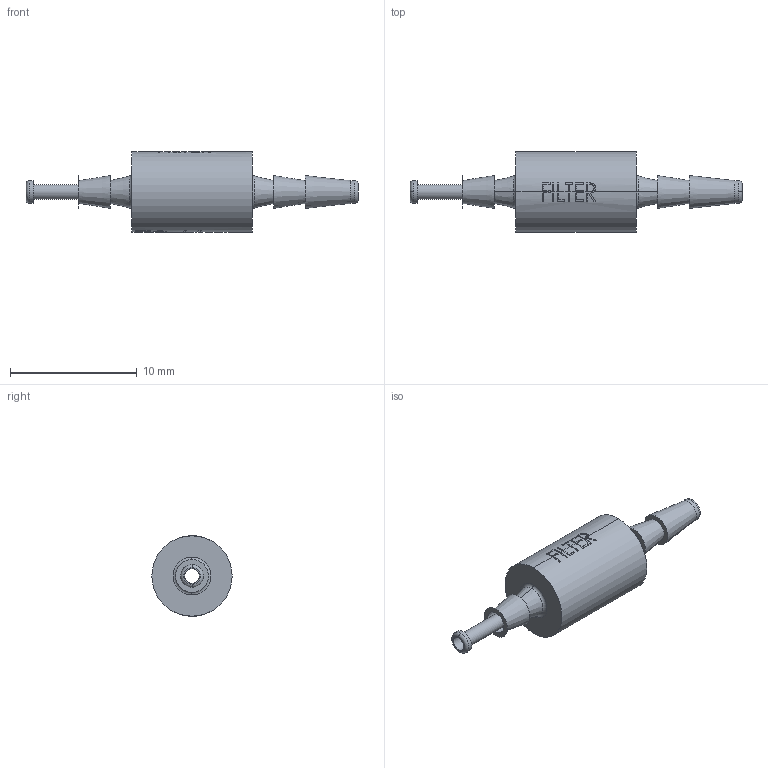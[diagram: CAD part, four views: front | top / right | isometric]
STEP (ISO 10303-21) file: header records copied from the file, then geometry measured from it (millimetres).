
FILE_DESCRIPTION(/* description */ ('SolidWorks IGES file using NURBS representation for surfaces '),/* implementation_level */ '2;1');
FILE_NAME(/* name */ 'K:\Normteile INVENTOR\Air-Logic\Filters\F-950-73-B80.IGS.ipt.stp',/* time_stamp */ '2020-05-27T10:39:50+02:00',/* author */ ('amarsh'),/* organization */ (''),/* preprocessor_version */ 'ST-DEVELOPER v18',/* originating_system */ 'Autodesk Inventor 2020',/* authorisation */ '');
FILE_SCHEMA (('AUTOMOTIVE_DESIGN { 1 0 10303 214 3 1 1 }'));
Length unit declared in the file: millimetre
Products named in the file (1): F-950-73-B80.IGS
Bounding box: 26.22 x 6.35 x 6.35 mm (x, y, z)
Volume: 335.3 mm3; surface area: 467.8 mm2
Topology: 1 solids, 1 shells, 161 faces, 462 edges, 310 vertices
Faces by surface type: plane 74, bspline 46, cylinder 25, torus 8, cone 8
Full cylindrical faces by diameter (mm): 1.17 x1, 1.8 x2
Entity records: 8926 total; most frequent: CARTESIAN_POINT 4634, ORIENTED_EDGE 924, DIRECTION 760, EDGE_CURVE 462, VERTEX_POINT 310, AXIS2_PLACEMENT_3D 272, LINE 216, VECTOR 216
